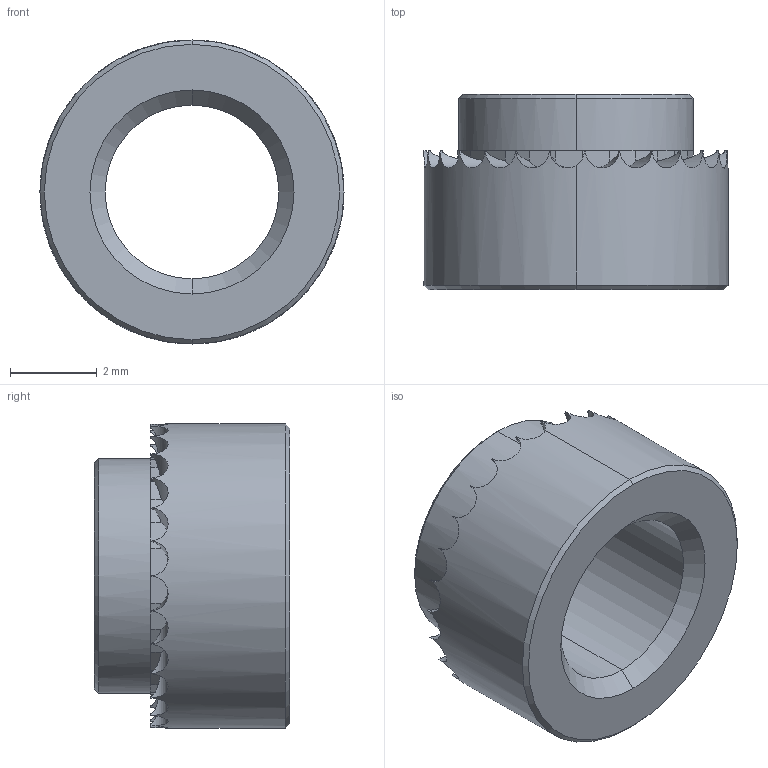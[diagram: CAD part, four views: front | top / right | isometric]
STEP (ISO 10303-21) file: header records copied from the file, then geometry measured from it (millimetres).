
FILE_DESCRIPTION (( 'STEP AP203' ), '1' );
FILE_NAME ('P0829.040-22G-ZP.step', '2019-03-21T22:14:31', ( '' ), ( '' ), 'SwSTEP 2.0', 'SolidWorks 2017', '' );
FILE_SCHEMA (( 'CONFIG_CONTROL_DESIGN' ));
Length unit declared in the file: millimetre
Products named in the file (1): P0829.040-22G-ZP
Bounding box: 7 x 4.5 x 7 mm (x, y, z)
Volume: 89.5 mm3; surface area: 197.4 mm2
Topology: 1 solids, 1 shells, 124 faces, 304 edges, 182 vertices
Faces by surface type: plane 83, cylinder 33, cone 8
Entity records: 3865 total; most frequent: CARTESIAN_POINT 943, ORIENTED_EDGE 608, DIRECTION 597, EDGE_CURVE 304, AXIS2_PLACEMENT_3D 224, VERTEX_POINT 182, LINE 149, VECTOR 149
